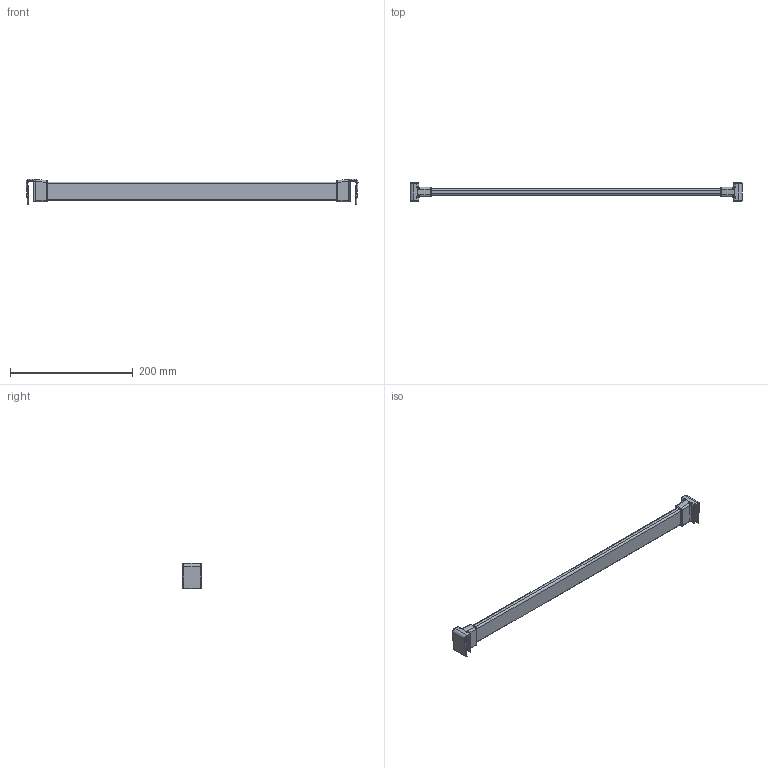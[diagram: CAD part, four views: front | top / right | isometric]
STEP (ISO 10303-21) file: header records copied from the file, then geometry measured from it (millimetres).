
FILE_DESCRIPTION (( 'STEP AP214' ), '1' );
FILE_NAME ('_Querreling_KAB-600_KS-16_P602_Glashalter.step', '2010-08-26T14:59:31', ( 'grass' ), ( '' ), 'SwSTEP 2.0', 'SolidWorks 2009', '' );
FILE_SCHEMA (( 'AUTOMOTIVE_DESIGN' ));
Length unit declared in the file: millimetre
Products named in the file (1): _Querreling_KAB-600_KS-16_P602_Glashalter
Bounding box: 540.78 x 30 x 41.5 mm (x, y, z)
Volume: 181095.7 mm3; surface area: 50479.3 mm2
Topology: 1 solids, 1 shells, 124 faces, 300 edges, 176 vertices
Faces by surface type: cylinder 58, plane 34, torus 16, bspline 12, sphere 4
Entity records: 5090 total; most frequent: CARTESIAN_POINT 2269, ORIENTED_EDGE 592, DIRECTION 590, EDGE_CURVE 296, AXIS2_PLACEMENT_3D 225, VERTEX_POINT 176, LINE 140, VECTOR 140
